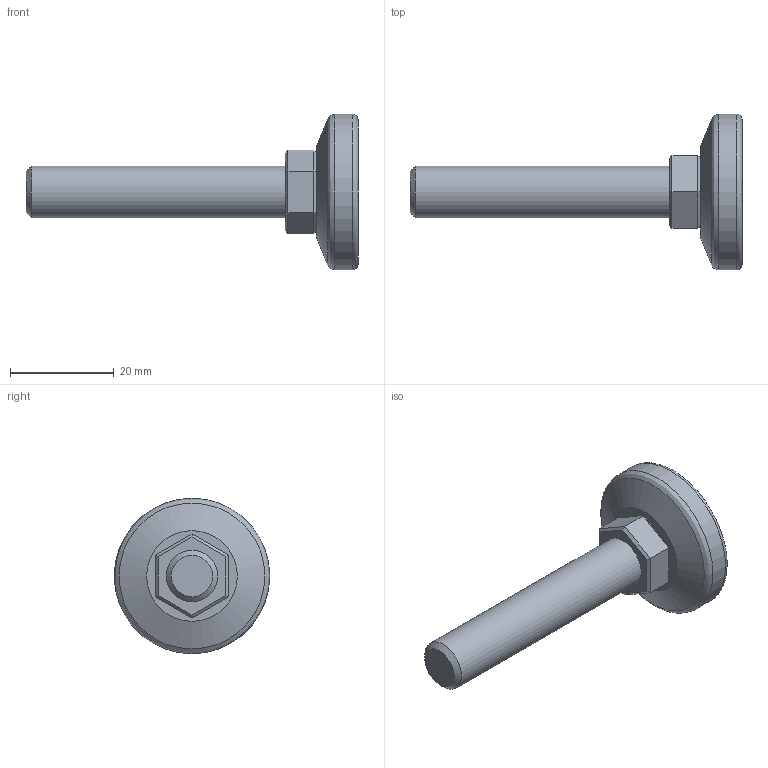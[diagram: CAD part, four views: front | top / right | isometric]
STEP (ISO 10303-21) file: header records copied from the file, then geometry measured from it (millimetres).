
FILE_DESCRIPTION(('STEP AP203'),'2;1');
FILE_NAME('301050.stp','2015-04-17T15:06:17',(''),(''),'2008.1.107','THINKDESIGN','');
FILE_SCHEMA(('CONFIG_CONTROL_DESIGN'));
Length unit declared in the file: millimetre
Bounding box: 64 x 30 x 30 mm (x, y, z)
Volume: 9061.2 mm3; surface area: 4602.6 mm2
Topology: 4 solids, 4 shells, 39 faces, 88 edges, 58 vertices
Faces by surface type: bspline 20, plane 15, cylinder 4
Full cylindrical faces by diameter (mm): 10 x3, 30 x1
Entity records: 1619 total; most frequent: CARTESIAN_POINT 676, ORIENTED_EDGE 176, DIRECTION 163, EDGE_CURVE 88, VERTEX_POINT 58, AXIS2_PLACEMENT_3D 56, VECTOR 51, LINE 51
